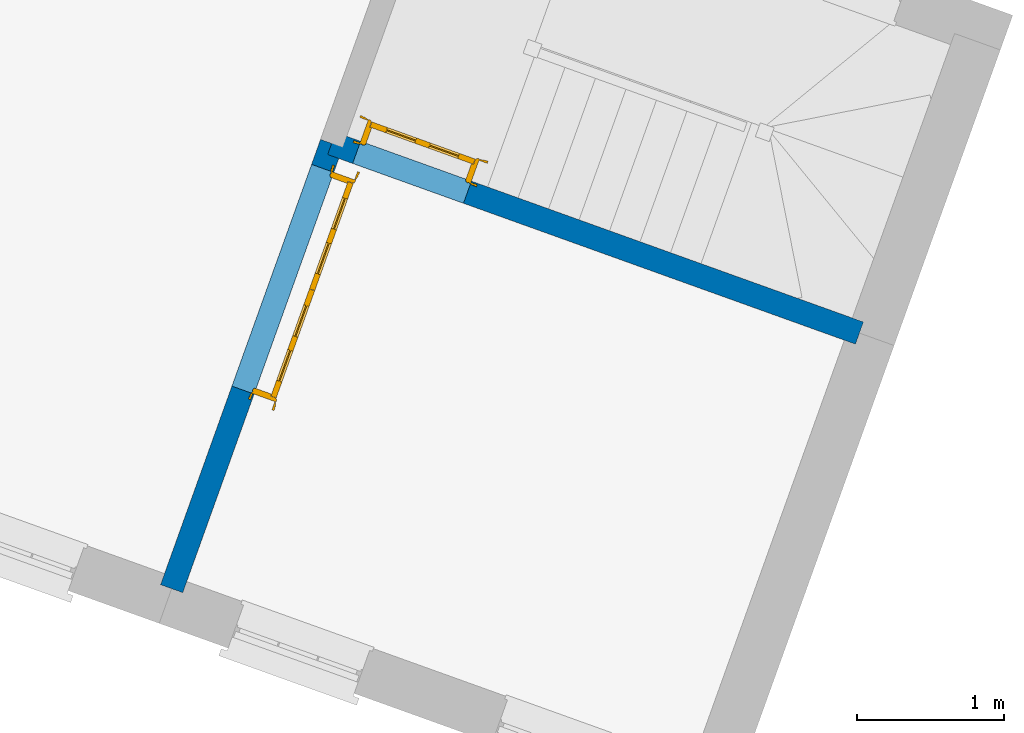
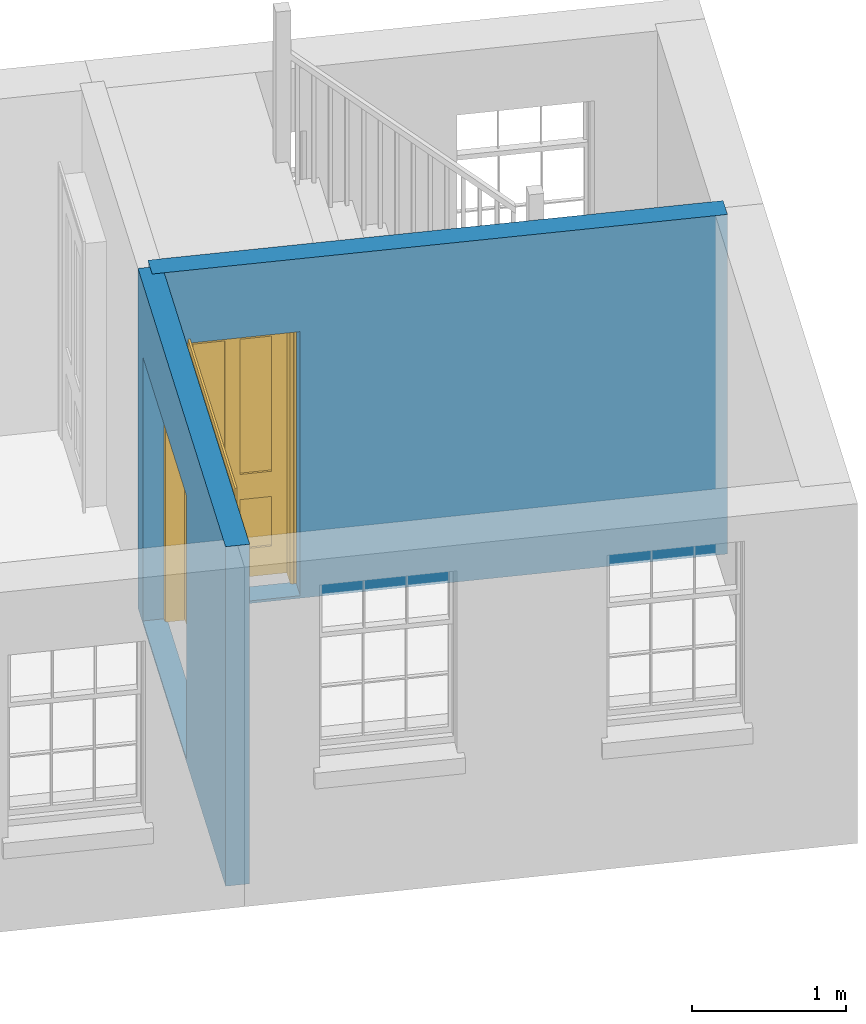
# One storey, part 2 of 4: 2 doors, 2 walls, 2 openings.
"""IFC4 building model written with IfcOpenShell, lengths in metres."""

from ifc_helpers import new_model, si_unit, frame, origin, origin_with_axes, place, context, subcontext, project, spatial, polyline, outline, extrude, faceted_brep, source, transform, mapped, material, layer, layer_set, layer_usage, type_object, type_shapes, element, fill, save


model = new_model("IFC4")

# Units and contexts
model_context = context("Model", 3, world=origin_with_axes())
body_context = subcontext(model_context, "Body", "Model", "MODEL_VIEW")
ifc_project = project(units=[si_unit("PLANEANGLEUNIT", "RADIAN"), si_unit("MASSUNIT", "GRAM", prefix="KILO"), si_unit("FORCEUNIT", "NEWTON", prefix="KILO"), si_unit("LENGTHUNIT", "METRE"), si_unit("AREAUNIT", "SQUARE_METRE"), si_unit("VOLUMEUNIT", "CUBIC_METRE")], contexts=[model_context, model_context])

# Sites, building, storey
site_1_placement = place(None, origin_with_axes())
site_1 = spatial("IfcSite", under=ifc_project, at=site_1_placement, Name="Tamar")
site_2_placement = place(site_1_placement, origin_with_axes())
site_2 = spatial("IfcSite", under=site_1, at=site_2_placement, Name="Site plot-21", CompositionType="ELEMENT")
building_placement = place(None, origin_with_axes())
building = spatial("IfcBuilding", under=site_2, at=building_placement, Name="Building plot-21", CompositionType="ELEMENT")
storey_placement = place(None, frame((0.0, 0.0, 29.6), z_axis=(0.0, 0.0, 1.0), x_axis=(1.0, 0.0, 0.0)))
storey = spatial("IfcBuildingStorey", under=building, at=storey_placement, Name="plot-21 1", CompositionType="ELEMENT", Elevation=29.6)

# Wall, opening, door
ifc_material = material(Name="Masonry")
ifc_layer = layer(ifc_material, 0.16, ventilated=False)
ifc_layer_set = layer_set([ifc_layer], Name="interior_0.08_0.08")
ifc_layer_usage = layer_usage(ifc_layer_set, "AXIS2", "POSITIVE", -0.08)
wall_type = type_object("IfcWallType", Name="interior_0.08_0.08", PredefinedType="SOLIDWALL", material=ifc_layer_set)
wall_1_placement = place(storey_placement, frame((258.100590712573, 284.200784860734, 0.0), z_axis=(0.0, 0.0, 1.0), x_axis=(-0.338164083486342, -0.941087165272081, 0.0)))
wall_1 = element("IfcWall", 1, at=wall_1_placement, inside=storey, type_object=wall_type, material=ifc_layer_usage, Name="interior", context=body_context, shape_type="SweptSolid", body=[
    extrude(outline(polyline([(-2.09046521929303e-14, 0.0799999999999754), (2.09303821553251e-14, -0.0799999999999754), (3.21283986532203, -0.0799999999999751), (3.21283986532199, 0.0799999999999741), (-2.09046521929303e-14, 0.0799999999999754)])), origin_with_axes(), (0.0, 0.0, 1.0), 2.7),
])
opening_1_placement = place(wall_1_placement, frame((0.180000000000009, 0.0, 0.0199999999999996)))
opening_1 = element("IfcOpeningElement", 2, at=opening_1_placement, cuts=wall_1, Name="My Opening", ObjectType="Opening", context=body_context, shape_type="SweptSolid", body=[
    extrude(outline(polyline([(0.0, -0.100000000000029), (1.6, -0.0999999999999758), (1.59999999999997, 1.10000000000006), (-3.53883589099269e-14, 1.1), (0.0, -0.100000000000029)])), origin_with_axes(), (0.0, 0.0, 1.0), 2.1),
])
door_type_1 = type_object("IfcDoorType", Name="door_inside_double", OperationType="SINGLE_SWING_LEFT", PredefinedType="NOTDEFINED")
shared_shape_1 = source(origin(), body_context, "Body", "Brep", [
    faceted_brep([(0.14, 0.307, 1.895), (0.14, 0.307, 0.82), (0.363, 0.307, 0.82), (0.363, 0.307, 1.895), (0.14, 0.292, 1.895), (0.14, 0.292, 0.82), (0.363, 0.292, 0.82), (0.363, 0.292, 1.895), (0.027, 0.292, 1.895), (0.027, 0.292, 0.82), (0.363, 0.292, 0.62), (0.14, 0.292, 0.62), (0.463, 0.292, 0.82), (0.463, 0.292, 1.895), (0.363, 0.292, 2.073), (0.14, 0.292, 2.073), (0.027, 0.292, 2.073), (0.027, 0.33, 1.895), (0.027, 0.33, 0.82), (0.027, 0.292, 0.62), (0.463, 0.292, 0.62), (0.14, 0.307, 0.62), (0.363, 0.307, 0.62), (0.463, 0.307, 0.82), (0.463, 0.307, 1.895), (0.463, 0.292, 2.073), (0.14, 0.33, 2.073), (0.363, 0.33, 2.073), (0.027, 0.33, 2.073), (0.14, 0.33, 1.895), (0.14, 0.33, 0.82), (0.027, 0.33, 0.62), (0.027, 0.292, 0.225), (0.14, 0.292, 0.225), (0.363, 0.292, 0.225), (0.463, 0.292, 0.225), (0.686, 0.292, 0.62), (0.686, 0.292, 0.82), (0.14, 0.307, 0.225), (0.363, 0.307, 0.225), (0.686, 0.307, 0.82), (0.686, 0.307, 1.895), (0.686, 0.292, 1.895), (0.686, 0.292, 2.073), (0.463, 0.33, 2.073), (0.363, 0.33, 1.895), (0.14, 0.315, 1.895), (0.14, 0.315, 0.82), (0.14, 0.33, 0.62), (0.027, 0.33, 0.225), (0.027, 0.292, 0.0), (0.14, 0.292, 0.0), (0.363, 0.292, 0.0), (0.463, 0.292, 0.0), (0.463, 0.307, 0.225), (0.463, 0.307, 0.62), (0.686, 0.307, 0.62), (0.799, 0.292, 0.62), (0.799, 0.292, 0.82), (0.799, 0.292, 1.895), (0.799, 0.292, 2.073), (0.686, 0.33, 2.073), (0.463, 0.33, 1.895), (0.363, 0.315, 1.895), (0.363, 0.315, 0.82), (0.363, 0.33, 0.82), (0.363, 0.33, 0.62), (0.14, 0.33, 0.225), (0.027, 0.33, 0.0), (0.14, 0.33, 0.0), (0.363, 0.33, 0.0), (0.463, 0.33, 0.0), (0.686, 0.292, 0.0), (0.686, 0.292, 0.225), (0.686, 0.307, 0.225), (0.799, 0.292, 0.225), (0.799, 0.33, 0.62), (0.799, 0.33, 0.82), (0.799, 0.33, 1.895), (0.799, 0.33, 2.073), (0.686, 0.33, 1.895), (0.463, 0.33, 0.82), (0.463, 0.33, 0.62), (0.363, 0.315, 0.62), (0.14, 0.315, 0.62), (0.14, 0.315, 0.225), (0.363, 0.33, 0.225), (0.463, 0.33, 0.225), (0.686, 0.33, 0.0), (0.799, 0.292, 0.0), (0.799, 0.33, 0.225), (0.686, 0.33, 0.62), (0.686, 0.33, 0.82), (0.686, 0.315, 1.895), (0.463, 0.315, 1.895), (0.463, 0.315, 0.82), (0.363, 0.315, 0.225), (0.686, 0.33, 0.225), (0.799, 0.33, 0.0), (0.686, 0.315, 0.82), (0.463, 0.315, 0.62), (0.463, 0.315, 0.225), (0.686, 0.315, 0.62), (0.686, 0.315, 0.225), (1.46, 0.33, 1.895), (1.237, 0.33, 1.895), (1.237, 0.33, 2.073), (1.46, 0.33, 2.073), (1.46, 0.315, 1.895), (1.237, 0.315, 1.895), (1.137, 0.33, 1.895), (1.137, 0.33, 2.073), (1.237, 0.292, 2.073), (1.46, 0.292, 2.073), (1.573, 0.33, 1.895), (1.573, 0.33, 2.073), (1.46, 0.33, 0.82), (1.46, 0.315, 0.82), (1.237, 0.315, 0.82), (1.237, 0.33, 0.82), (1.137, 0.33, 0.82), (0.914, 0.33, 2.073), (0.914, 0.33, 1.895), (1.137, 0.292, 2.073), (1.237, 0.292, 1.895), (1.46, 0.292, 1.895), (1.573, 0.292, 2.073), (1.573, 0.33, 0.82), (1.573, 0.292, 1.895), (1.237, 0.33, 0.62), (1.137, 0.33, 0.62), (1.137, 0.315, 0.82), (1.137, 0.315, 1.895), (0.914, 0.292, 2.073), (0.914, 0.315, 1.895), (0.801, 0.33, 2.073), (0.801, 0.33, 1.895), (1.137, 0.292, 1.895), (1.237, 0.307, 1.895), (1.46, 0.307, 1.895), (1.573, 0.292, 0.82), (1.573, 0.33, 0.62), (1.46, 0.33, 0.62), (1.237, 0.33, 0.225), (1.137, 0.33, 0.225), (0.914, 0.33, 0.82), (0.914, 0.33, 0.62), (0.914, 0.315, 0.82), (0.801, 0.292, 2.073), (0.914, 0.292, 1.895), (0.801, 0.33, 0.82), (0.801, 0.292, 1.895), (1.137, 0.292, 0.82), (1.237, 0.292, 0.82), (1.237, 0.307, 0.82), (1.46, 0.307, 0.82), (1.46, 0.292, 0.82), (1.573, 0.292, 0.62), (1.573, 0.33, 0.225), (1.46, 0.33, 0.225), (1.46, 0.315, 0.62), (1.237, 0.315, 0.62), (1.237, 0.33, 0.0), (1.137, 0.33, 0.0), (1.137, 0.315, 0.225), (1.137, 0.315, 0.62), (1.237, 0.315, 0.225), (0.914, 0.315, 0.62), (0.801, 0.33, 0.62), (0.914, 0.307, 1.895), (1.137, 0.307, 1.895), (0.801, 0.292, 0.82), (1.137, 0.292, 0.62), (1.237, 0.292, 0.62), (1.137, 0.307, 0.82), (1.46, 0.292, 0.62), (1.573, 0.292, 0.225), (1.573, 0.33, 0.0), (1.46, 0.33, 0.0), (1.46, 0.315, 0.225), (1.237, 0.292, 0.0), (1.137, 0.292, 0.0), (0.914, 0.33, 0.225), (0.914, 0.33, 0.0), (0.914, 0.315, 0.225), (0.801, 0.33, 0.225), (0.801, 0.292, 0.62), (0.914, 0.292, 0.82), (0.914, 0.307, 0.82), (1.137, 0.292, 0.225), (1.237, 0.292, 0.225), (0.914, 0.292, 0.62), (1.46, 0.292, 0.225), (1.573, 0.292, 0.0), (1.46, 0.292, 0.0), (0.914, 0.292, 0.0), (0.801, 0.33, 0.0), (0.801, 0.292, 0.225), (1.237, 0.307, 0.225), (1.237, 0.307, 0.62), (1.137, 0.307, 0.62), (1.137, 0.307, 0.225), (1.46, 0.307, 0.62), (0.914, 0.307, 0.62), (1.46, 0.307, 0.225), (0.914, 0.292, 0.225), (0.801, 0.292, 0.0), (0.914, 0.307, 0.225), (0.02, 0.335, 0.0), (0.005, 0.34, 0.0), (0.005, 0.34, 2.095), (0.02, 0.335, 2.08), (0.02, 0.33, 0.0), (0.0, 0.335, 0.0), (0.0, 0.335, 2.1), (1.595, 0.34, 2.095), (1.58, 0.335, 2.08), (0.02, 0.33, 2.08), (0.0, 0.33, 0.0), (-0.032, 0.345, 0.0), (-0.032, 0.345, 2.132), (1.6, 0.335, 2.1), (1.595, 0.34, 0.0), (1.58, 0.335, 0.0), (1.58, 0.33, 2.08), (0.025, 0.33, 0.0), (0.025, 0.33, 2.075), (-0.04, 0.34, 0.0), (0.025, 0.29, 0.0), (0.0, 0.17, 0.0), (-0.04, 0.34, 2.14), (1.632, 0.345, 2.132), (1.6, 0.335, 0.0), (1.58, 0.33, 0.0), (1.575, 0.33, 2.075), (0.025, 0.29, 2.075), (-0.06, 0.33, 0.0), (0.035, 0.17, 0.0), (0.0, 0.17, 2.1), (0.0, 0.33, 2.1), (-0.04, 0.345, 0.0), (-0.04, 0.345, 2.14), (1.64, 0.34, 2.14), (1.632, 0.345, 0.0), (1.6, 0.33, 0.0), (1.575, 0.33, 0.0), (1.575, 0.29, 2.075), (0.04, 0.29, 0.0), (0.04, 0.29, 2.06), (-0.06, 0.345, 0.0), (-0.06, 0.33, 2.16), (0.015, 0.165, 0.0), (0.04, 0.17, 0.0), (-0.045, 0.17, 2.145), (-0.045, 0.17, 0.0), (1.6, 0.17, 2.1), (1.6, 0.33, 2.1), (-0.06, 0.345, 2.16), (1.64, 0.345, 2.14), (1.64, 0.34, 0.0), (1.6, 0.17, 0.0), (1.575, 0.29, 0.0), (1.56, 0.29, 2.06), (0.04, 0.17, 2.06), (1.66, 0.33, 2.16), (-0.017, 0.155, 0.0), (-0.025, 0.16, 0.0), (0.02, 0.16, 0.0), (0.035, 0.165, 0.0), (0.035, 0.17, 2.065), (1.645, 0.17, 2.145), (-0.045, 0.155, 2.145), (-0.045, 0.155, 0.0), (1.66, 0.345, 2.16), (1.64, 0.345, 0.0), (1.66, 0.33, 0.0), (1.565, 0.17, 0.0), (1.56, 0.29, 0.0), (1.56, 0.17, 2.06), (-0.017, 0.155, 2.117), (-0.025, 0.16, 2.125), (0.015, 0.165, 2.085), (0.02, 0.16, 2.08), (0.035, 0.165, 2.065), (1.565, 0.17, 2.065), (1.645, 0.17, 0.0), (1.645, 0.155, 2.145), (-0.025, 0.155, 0.0), (1.66, 0.345, 0.0), (1.585, 0.165, 0.0), (1.56, 0.17, 0.0), (1.617, 0.155, 2.117), (1.625, 0.16, 2.125), (-0.025, 0.155, 2.125), (1.585, 0.165, 2.085), (1.58, 0.16, 2.08), (1.565, 0.165, 2.065), (1.625, 0.16, 0.0), (1.645, 0.155, 0.0), (1.625, 0.155, 2.125), (1.617, 0.155, 0.0), (1.565, 0.165, 0.0), (1.58, 0.16, 0.0), (1.625, 0.155, 0.0)], [[[0, 1, 2, 3]], [[1, 0, 4, 5]], [[2, 1, 5, 6]], [[6, 7, 3, 2]], [[7, 4, 0, 3]], [[4, 8, 9, 5]], [[10, 6, 5, 11]], [[6, 12, 13, 7]], [[14, 15, 4, 7]], [[15, 16, 8, 4]], [[9, 8, 17, 18]], [[5, 9, 19, 11]], [[10, 20, 12, 6]], [[10, 11, 21, 22]], [[13, 12, 23, 24]], [[7, 13, 25, 14]], [[26, 15, 14, 27]], [[28, 16, 15, 26]], [[8, 16, 28, 17]], [[17, 29, 30, 18]], [[18, 31, 19, 9]], [[11, 19, 32, 33]], [[34, 35, 20, 10]], [[20, 36, 37, 12]], [[11, 33, 38, 21]], [[39, 22, 21, 38]], [[34, 10, 22, 39]], [[12, 37, 40, 23]], [[24, 23, 40, 41]], [[42, 13, 24, 41]], [[13, 42, 43, 25]], [[14, 25, 44, 27]], [[26, 27, 45, 29]], [[28, 26, 29, 17]], [[30, 29, 46, 47]], [[18, 30, 48, 31]], [[31, 49, 32, 19]], [[33, 32, 50, 51]], [[52, 53, 35, 34]], [[20, 35, 54, 55]], [[36, 20, 55, 56]], [[36, 57, 58, 37]], [[33, 34, 39, 38]], [[37, 42, 41, 40]], [[42, 59, 60, 43]], [[44, 25, 43, 61]], [[62, 45, 27, 44]], [[29, 45, 63, 46]], [[46, 63, 64, 47]], [[65, 30, 47, 64]], [[30, 65, 66, 48]], [[31, 48, 67, 49]], [[68, 50, 32, 49]], [[68, 69, 51, 50]], [[34, 33, 51, 52]], [[53, 52, 70, 71]], [[53, 72, 73, 35]], [[35, 73, 74, 54]], [[55, 54, 74, 56]], [[73, 36, 56, 74]], [[73, 75, 57, 36]], [[57, 76, 77, 58]], [[37, 58, 59, 42]], [[78, 79, 60, 59]], [[60, 79, 61, 43]], [[80, 62, 44, 61]], [[81, 65, 45, 62]], [[45, 65, 64, 63]], [[82, 66, 65, 81]], [[48, 66, 83, 84]], [[67, 48, 84, 85]], [[49, 67, 69, 68]], [[52, 51, 69, 70]], [[71, 70, 86, 87]], [[72, 53, 71, 88]], [[72, 89, 75, 73]], [[75, 90, 76, 57]], [[76, 91, 92, 77]], [[78, 59, 58, 77]], [[78, 80, 61, 79]], [[62, 80, 93, 94]], [[81, 62, 94, 95]], [[87, 86, 66, 82]], [[91, 82, 81, 92]], [[66, 86, 96, 83]], [[84, 83, 96, 85]], [[86, 67, 85, 96]], [[67, 86, 70, 69]], [[88, 71, 87, 97]], [[89, 72, 88, 98]], [[89, 98, 90, 75]], [[90, 97, 91, 76]], [[80, 78, 77, 92]], [[80, 92, 99, 93]], [[99, 95, 94, 93]], [[92, 81, 95, 99]], [[87, 82, 100, 101]], [[82, 91, 102, 100]], [[97, 87, 101, 103]], [[98, 88, 97, 90]], [[91, 97, 103, 102]], [[103, 101, 100, 102]], [[104, 105, 106, 107]], [[105, 104, 108, 109]], [[105, 110, 111, 106]], [[106, 112, 113, 107]], [[114, 104, 107, 115]], [[104, 116, 117, 108]], [[117, 118, 109, 108]], [[119, 105, 109, 118]], [[119, 120, 110, 105]], [[121, 111, 110, 122]], [[123, 112, 106, 111]], [[124, 125, 113, 112]], [[126, 115, 107, 113]], [[104, 114, 127, 116]], [[114, 115, 126, 128]], [[116, 119, 118, 117]], [[129, 130, 120, 119]], [[110, 120, 131, 132]], [[121, 133, 123, 111]], [[122, 110, 132, 134]], [[135, 121, 122, 136]], [[137, 124, 112, 123]], [[125, 124, 138, 139]], [[125, 128, 126, 113]], [[114, 128, 140, 127]], [[141, 142, 116, 127]], [[142, 129, 119, 116]], [[143, 144, 130, 129]], [[145, 120, 130, 146]], [[120, 145, 147, 131]], [[134, 132, 131, 147]], [[135, 148, 133, 121]], [[123, 133, 149, 137]], [[145, 122, 134, 147]], [[136, 122, 145, 150]], [[151, 148, 135, 136]], [[152, 153, 124, 137]], [[124, 153, 154, 138]], [[138, 154, 155, 139]], [[156, 125, 139, 155]], [[156, 140, 128, 125]], [[157, 141, 127, 140]], [[158, 159, 142, 141]], [[129, 142, 160, 161]], [[162, 163, 144, 143]], [[130, 144, 164, 165]], [[143, 129, 161, 166]], [[146, 130, 165, 167]], [[150, 145, 146, 168]], [[133, 148, 151, 149]], [[137, 149, 169, 170]], [[171, 151, 136, 150]], [[172, 173, 153, 152]], [[152, 137, 170, 174]], [[153, 156, 155, 154]], [[175, 157, 140, 156]], [[176, 158, 141, 157]], [[177, 178, 159, 158]], [[142, 159, 179, 160]], [[179, 166, 161, 160]], [[180, 181, 163, 162]], [[182, 144, 163, 183]], [[178, 162, 143, 159]], [[144, 182, 184, 164]], [[167, 165, 164, 184]], [[159, 143, 166, 179]], [[182, 146, 167, 184]], [[168, 146, 182, 185]], [[150, 168, 186, 171]], [[149, 151, 171, 187]], [[149, 187, 188, 169]], [[169, 188, 174, 170]], [[189, 190, 173, 172]], [[173, 175, 156, 153]], [[172, 152, 187, 191]], [[187, 152, 174, 188]], [[192, 176, 157, 175]], [[193, 177, 158, 176]], [[193, 194, 178, 177]], [[181, 180, 190, 189]], [[181, 195, 183, 163]], [[194, 180, 162, 178]], [[185, 182, 183, 196]], [[168, 185, 197, 186]], [[187, 171, 186, 191]], [[173, 190, 198, 199]], [[189, 172, 200, 201]], [[175, 173, 199, 202]], [[172, 191, 203, 200]], [[194, 193, 176, 192]], [[192, 175, 202, 204]], [[180, 194, 192, 190]], [[189, 205, 195, 181]], [[196, 183, 195, 206]], [[196, 206, 197, 185]], [[191, 186, 197, 205]], [[190, 192, 204, 198]], [[199, 198, 204, 202]], [[201, 200, 203, 207]], [[205, 189, 201, 207]], [[191, 205, 207, 203]], [[205, 197, 206, 195]], [[208, 209, 210, 211]], [[208, 212, 213, 209]], [[209, 213, 214, 210]], [[211, 210, 215, 216]], [[211, 217, 212, 208]], [[218, 213, 212]], [[213, 219, 220, 214]], [[210, 214, 221, 215]], [[216, 215, 222, 223]], [[217, 211, 216, 224]], [[225, 212, 217, 226]], [[219, 213, 218, 227]], [[218, 212, 228, 229]], [[219, 227, 230, 220]], [[214, 220, 231, 221]], [[215, 221, 232, 222]], [[222, 232, 233, 223]], [[224, 216, 223, 233]], [[226, 217, 224, 234]], [[225, 228, 212]], [[235, 228, 225, 226]], [[236, 227, 218]], [[237, 229, 228]], [[229, 238, 239, 218]], [[227, 240, 241, 230]], [[220, 230, 242, 231]], [[221, 231, 243, 232]], [[244, 233, 232]], [[234, 224, 233, 245]], [[246, 235, 226, 234]], [[247, 228, 235, 248]], [[240, 227, 236, 249]], [[239, 250, 236, 218]], [[251, 229, 237]], [[252, 237, 228, 247]], [[253, 238, 229, 254]], [[238, 255, 256, 239]], [[241, 240, 257]], [[230, 241, 258, 242]], [[231, 242, 259, 243]], [[259, 244, 232, 243]], [[260, 261, 233, 244]], [[245, 233, 261]], [[261, 246, 234, 245]], [[248, 235, 246, 262]], [[248, 263, 252, 247]], [[250, 257, 249, 236]], [[240, 249, 257]], [[256, 264, 250, 239]], [[265, 266, 229, 251]], [[267, 251, 237, 268]], [[263, 269, 237, 252]], [[270, 255, 238, 253]], [[229, 266, 254]], [[271, 253, 254, 272]], [[256, 255, 260, 244]], [[273, 241, 257]], [[273, 258, 241]], [[242, 258, 274, 259]], [[275, 244, 259]], [[260, 276, 261]], [[261, 277, 262, 246]], [[262, 278, 263, 248]], [[264, 273, 257, 250]], [[244, 275, 264, 256]], [[266, 265, 279, 280]], [[265, 251, 281, 279]], [[251, 267, 282, 281]], [[269, 283, 268, 237]], [[267, 268, 283, 282]], [[278, 284, 269, 263]], [[285, 260, 255, 270]], [[286, 270, 253, 271]], [[272, 254, 266, 287]], [[271, 272, 287]], [[273, 274, 258]], [[288, 275, 259, 274]], [[276, 260, 289]], [[277, 261, 276, 290]], [[278, 262, 277, 290]], [[275, 288, 273, 264]], [[280, 279, 291, 292]], [[287, 266, 280, 293]], [[279, 281, 294, 291]], [[281, 282, 295, 294]], [[284, 296, 283, 269]], [[282, 283, 296, 295]], [[290, 276, 284, 278]], [[285, 297, 260]], [[298, 285, 270, 286]], [[299, 286, 271]], [[271, 287, 293]], [[273, 288, 274]], [[300, 289, 260, 297]], [[301, 276, 289, 302]], [[292, 291, 300, 297]], [[293, 280, 292, 299]], [[291, 294, 289, 300]], [[294, 295, 302, 289]], [[296, 284, 276, 301]], [[295, 296, 301, 302]], [[303, 297, 285, 298]], [[299, 298, 286]], [[271, 293, 299]], [[299, 292, 297, 303]], [[299, 303, 298]]]),
])
type_shapes(door_type_1, [shared_shape_1])
door_1_placement = place(storey_placement, frame((257.945612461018, 284.065205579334, 0.0199999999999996), z_axis=(0.0, 0.0, 1.0), x_axis=(-0.541062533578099, -1.50573946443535, 0.0)))
door_1 = element("IfcDoor", 3, at=door_1_placement, inside=storey, type_object=door_type_1, Name="kitchen living inside door", OverallHeight=2.1, OverallWidth=1.6, context=body_context, shape_type="MappedRepresentation", body=[
    mapped(shared_shape_1, transform((0.0, 0.0, 0.0), scale=1.0)),
])
fill(opening_1, door_1)

wall_2_placement = place(storey_placement, frame((258.100590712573, 284.200784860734, 0.0), z_axis=(0.0, 0.0, 1.0), x_axis=(0.941087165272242, -0.338164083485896, 0.0)))
wall_2 = element("IfcWall", 4, at=wall_2_placement, inside=storey, type_object=wall_type, material=ifc_layer_usage, Name="interior", context=body_context, shape_type="SweptSolid", body=[
    extrude(outline(polyline([(-2.23331103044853e-15, 0.0800000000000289), (2.18798671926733e-15, -0.0800000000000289), (3.80822589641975, -0.0800000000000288), (3.80822589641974, 0.0800000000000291), (-2.23331103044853e-15, 0.0800000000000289)])), origin_with_axes(), (0.0, 0.0, 1.0), 2.7),
])
opening_2_placement = place(wall_2_placement, frame((0.18000000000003, 0.0, 0.0199999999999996)))
opening_2 = element("IfcOpeningElement", 5, at=opening_2_placement, cuts=wall_2, Name="My Opening", ObjectType="Opening", context=body_context, shape_type="SweptSolid", body=[
    extrude(outline(polyline([(0.0, -0.099999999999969), (0.800000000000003, -0.0999999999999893), (0.799999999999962, 1.09999999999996), (-4.03566069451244e-14, 1.09999999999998), (0.0, -0.099999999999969)])), origin_with_axes(), (0.0, 0.0, 1.0), 2.1),
])
door_type_2 = type_object("IfcDoorType", Name="door_inside", OperationType="SINGLE_SWING_LEFT", PredefinedType="NOTDEFINED")
shared_shape_2 = source(origin(), body_context, "Body", "Brep", [
    faceted_brep([(0.773, 0.33, 1.895), (0.66, 0.33, 1.895), (0.66, 0.33, 2.073), (0.773, 0.33, 2.073), (0.773, 0.33, 0.82), (0.66, 0.33, 0.82), (0.45, 0.33, 1.895), (0.45, 0.33, 2.073), (0.773, 0.33, 0.62), (0.66, 0.33, 0.62), (0.66, 0.315, 0.82), (0.66, 0.315, 1.895), (0.45, 0.315, 1.895), (0.35, 0.33, 1.895), (0.35, 0.33, 2.073), (0.773, 0.33, 0.225), (0.66, 0.33, 0.225), (0.45, 0.33, 0.62), (0.45, 0.33, 0.82), (0.45, 0.315, 0.82), (0.35, 0.33, 0.82), (0.14, 0.33, 2.073), (0.14, 0.33, 1.895), (0.773, 0.33, 0.0), (0.66, 0.33, 0.0), (0.66, 0.315, 0.225), (0.66, 0.315, 0.62), (0.45, 0.315, 0.62), (0.35, 0.33, 0.62), (0.35, 0.315, 0.82), (0.35, 0.315, 1.895), (0.14, 0.315, 1.895), (0.027, 0.33, 2.073), (0.027, 0.33, 1.895), (0.773, 0.292, 0.0), (0.66, 0.292, 0.0), (0.45, 0.33, 0.0), (0.45, 0.33, 0.225), (0.45, 0.315, 0.225), (0.35, 0.33, 0.225), (0.14, 0.33, 0.82), (0.14, 0.33, 0.62), (0.14, 0.315, 0.82), (0.027, 0.33, 0.82), (0.773, 0.292, 0.225), (0.66, 0.292, 0.225), (0.45, 0.292, 0.0), (0.35, 0.33, 0.0), (0.35, 0.315, 0.225), (0.35, 0.315, 0.62), (0.14, 0.315, 0.62), (0.027, 0.33, 0.62), (0.773, 0.292, 0.62), (0.66, 0.292, 0.62), (0.45, 0.292, 0.225), (0.35, 0.292, 0.0), (0.14, 0.33, 0.225), (0.14, 0.33, 0.0), (0.14, 0.315, 0.225), (0.027, 0.33, 0.225), (0.773, 0.292, 0.82), (0.66, 0.292, 0.82), (0.66, 0.307, 0.62), (0.66, 0.307, 0.225), (0.45, 0.307, 0.225), (0.35, 0.292, 0.225), (0.14, 0.292, 0.0), (0.027, 0.33, 0.0), (0.773, 0.292, 1.895), (0.66, 0.292, 1.895), (0.45, 0.292, 0.62), (0.45, 0.292, 0.82), (0.45, 0.307, 0.62), (0.35, 0.292, 0.62), (0.14, 0.292, 0.225), (0.027, 0.292, 0.0), (0.773, 0.292, 2.073), (0.66, 0.292, 2.073), (0.66, 0.307, 1.895), (0.66, 0.307, 0.82), (0.45, 0.307, 0.82), (0.35, 0.292, 0.82), (0.35, 0.307, 0.62), (0.35, 0.307, 0.225), (0.14, 0.307, 0.225), (0.027, 0.292, 0.225), (0.45, 0.292, 1.895), (0.45, 0.292, 2.073), (0.45, 0.307, 1.895), (0.35, 0.292, 1.895), (0.14, 0.292, 0.82), (0.14, 0.292, 0.62), (0.14, 0.307, 0.62), (0.027, 0.292, 0.62), (0.35, 0.292, 2.073), (0.35, 0.307, 1.895), (0.35, 0.307, 0.82), (0.14, 0.307, 0.82), (0.027, 0.292, 0.82), (0.14, 0.292, 2.073), (0.14, 0.292, 1.895), (0.14, 0.307, 1.895), (0.027, 0.292, 1.895), (0.027, 0.292, 2.073), (0.02, 0.335, 0.0), (0.005, 0.34, 0.0), (0.005, 0.34, 2.095), (0.02, 0.335, 2.08), (0.02, 0.33, 0.0), (0.0, 0.335, 0.0), (0.0, 0.335, 2.1), (0.795, 0.34, 2.095), (0.78, 0.335, 2.08), (0.02, 0.33, 2.08), (0.0, 0.33, 0.0), (-0.032, 0.345, 0.0), (-0.032, 0.345, 2.132), (0.8, 0.335, 2.1), (0.795, 0.34, 0.0), (0.78, 0.335, 0.0), (0.78, 0.33, 2.08), (0.04, 0.29, 0.0), (0.025, 0.29, 0.0), (0.025, 0.29, 2.075), (0.04, 0.29, 2.06), (-0.04, 0.34, 0.0), (-0.04, 0.34, 2.14), (0.832, 0.345, 2.132), (0.8, 0.335, 0.0), (0.78, 0.33, 0.0), (0.8, 0.33, 0.0), (0.86, 0.33, 0.0), (0.86, 0.33, 2.16), (0.8, 0.33, 2.1), (-0.06, 0.33, 2.16), (0.0, 0.33, 2.1), (-0.06, 0.33, 0.0), (-0.04, 0.345, 0.0), (-0.04, 0.345, 2.14), (0.84, 0.34, 2.14), (0.832, 0.345, 0.0), (0.84, 0.34, 0.0), (0.86, 0.345, 0.0), (0.86, 0.345, 2.16), (-0.06, 0.345, 2.16), (-0.06, 0.345, 0.0), (0.84, 0.345, 0.0), (0.84, 0.345, 2.14), (-0.025, 0.155, 0.0), (-0.025, 0.16, 0.0), (-0.025, 0.16, 2.125), (-0.025, 0.155, 2.125), (-0.017, 0.155, 0.0), (-0.017, 0.155, 2.117), (0.825, 0.16, 2.125), (0.825, 0.155, 2.125), (0.825, 0.155, 0.0), (0.845, 0.155, 0.0), (-0.045, 0.155, 2.145), (-0.045, 0.155, 0.0), (0.845, 0.155, 2.145), (0.015, 0.165, 0.0), (0.015, 0.165, 2.085), (0.817, 0.155, 2.117), (0.825, 0.16, 0.0), (0.845, 0.17, 0.0), (0.845, 0.17, 2.145), (-0.045, 0.17, 2.145), (-0.045, 0.17, 0.0), (0.02, 0.16, 0.0), (0.02, 0.16, 2.08), (0.785, 0.165, 2.085), (0.817, 0.155, 0.0), (0.8, 0.17, 0.0), (0.8, 0.17, 2.1), (0.0, 0.17, 2.1), (0.0, 0.17, 0.0), (0.035, 0.165, 0.0), (0.035, 0.165, 2.065), (0.78, 0.16, 2.08), (0.785, 0.165, 0.0), (0.775, 0.29, 2.075), (0.76, 0.29, 2.06), (0.035, 0.17, 2.065), (0.035, 0.17, 0.0), (0.765, 0.165, 2.065), (0.78, 0.16, 0.0), (0.765, 0.17, 0.0), (0.765, 0.17, 2.065), (0.765, 0.165, 0.0), (0.04, 0.17, 2.06), (0.04, 0.17, 0.0), (0.76, 0.17, 2.06), (0.76, 0.17, 0.0), (0.76, 0.29, 0.0), (0.775, 0.29, 0.0), (0.025, 0.33, 0.0), (0.025, 0.33, 2.075), (0.775, 0.33, 0.0), (0.775, 0.33, 2.075)], [[[0, 1, 2, 3]], [[1, 0, 4, 5]], [[1, 6, 7, 2]], [[8, 9, 5, 4]], [[1, 5, 10, 11]], [[6, 1, 11, 12]], [[6, 13, 14, 7]], [[15, 16, 9, 8]], [[9, 17, 18, 5]], [[5, 18, 19, 10]], [[10, 19, 12, 11]], [[18, 6, 12, 19]], [[18, 20, 13, 6]], [[21, 14, 13, 22]], [[23, 24, 16, 15]], [[9, 16, 25, 26]], [[17, 9, 26, 27]], [[17, 28, 20, 18]], [[13, 20, 29, 30]], [[22, 13, 30, 31]], [[32, 21, 22, 33]], [[34, 35, 24, 23]], [[24, 36, 37, 16]], [[16, 37, 38, 25]], [[25, 38, 27, 26]], [[37, 17, 27, 38]], [[37, 39, 28, 17]], [[40, 20, 28, 41]], [[20, 40, 42, 29]], [[31, 30, 29, 42]], [[40, 22, 31, 42]], [[33, 22, 40, 43]], [[35, 34, 44, 45]], [[35, 46, 36, 24]], [[36, 47, 39, 37]], [[28, 39, 48, 49]], [[41, 28, 49, 50]], [[43, 40, 41, 51]], [[45, 44, 52, 53]], [[46, 35, 45, 54]], [[46, 55, 47, 36]], [[56, 39, 47, 57]], [[39, 56, 58, 48]], [[50, 49, 48, 58]], [[56, 41, 50, 58]], [[51, 41, 56, 59]], [[53, 52, 60, 61]], [[45, 53, 62, 63]], [[54, 45, 63, 64]], [[55, 46, 54, 65]], [[55, 66, 57, 47]], [[59, 56, 57, 67]], [[61, 60, 68, 69]], [[70, 53, 61, 71]], [[53, 70, 72, 62]], [[72, 64, 63, 62]], [[70, 54, 64, 72]], [[65, 54, 70, 73]], [[65, 74, 66, 55]], [[67, 57, 66, 75]], [[69, 68, 76, 77]], [[61, 69, 78, 79]], [[71, 61, 79, 80]], [[73, 70, 71, 81]], [[65, 73, 82, 83]], [[74, 65, 83, 84]], [[74, 85, 75, 66]], [[86, 69, 77, 87]], [[69, 86, 88, 78]], [[88, 80, 79, 78]], [[86, 71, 80, 88]], [[81, 71, 86, 89]], [[73, 81, 90, 91]], [[73, 91, 92, 82]], [[83, 82, 92, 84]], [[91, 74, 84, 92]], [[91, 93, 85, 74]], [[89, 86, 87, 94]], [[81, 89, 95, 96]], [[90, 81, 96, 97]], [[90, 98, 93, 91]], [[94, 99, 100, 89]], [[89, 100, 101, 95]], [[101, 97, 96, 95]], [[100, 90, 97, 101]], [[100, 102, 98, 90]], [[99, 103, 102, 100]], [[32, 103, 99, 21]], [[102, 103, 32, 33]], [[98, 102, 33, 43]], [[21, 99, 94, 14]], [[94, 87, 7, 14]], [[7, 87, 77, 2]], [[76, 3, 2, 77]], [[43, 51, 93, 98]], [[51, 59, 85, 93]], [[67, 75, 85, 59]], [[34, 23, 15, 44]], [[44, 15, 8, 52]], [[52, 8, 4, 60]], [[0, 68, 60, 4]], [[0, 3, 76, 68]], [[104, 105, 106, 107]], [[104, 108, 109, 105]], [[105, 109, 110, 106]], [[107, 106, 111, 112]], [[107, 113, 108, 104]], [[114, 109, 108]], [[109, 115, 116, 110]], [[106, 110, 117, 111]], [[112, 111, 118, 119]], [[113, 107, 112, 120]], [[121, 122, 123, 124]], [[115, 109, 114, 125]], [[115, 125, 126, 116]], [[110, 116, 127, 117]], [[111, 117, 128, 118]], [[118, 128, 129, 119]], [[120, 112, 119, 129]], [[130, 129, 128]], [[130, 131, 132, 133]], [[133, 132, 134, 135]], [[135, 134, 136, 114]], [[136, 125, 114]], [[125, 137, 138, 126]], [[116, 126, 139, 127]], [[117, 127, 140, 128]], [[141, 130, 128, 140]], [[131, 130, 141]], [[131, 142, 143, 132]], [[132, 143, 144, 134]], [[134, 144, 145, 136]], [[137, 125, 136, 145]], [[143, 142, 146]], [[143, 146, 147]], [[137, 145, 144]], [[143, 147, 138]], [[138, 137, 144]], [[143, 138, 144]], [[126, 138, 147, 139]], [[127, 139, 141, 140]], [[142, 131, 141, 146]], [[139, 147, 146, 141]], [[148, 149, 150, 151]], [[149, 152, 153, 150]], [[151, 150, 154, 155]], [[155, 156, 157]], [[158, 159, 148]], [[158, 148, 151]], [[155, 157, 160]], [[158, 151, 155]], [[155, 160, 158]], [[152, 161, 162, 153]], [[150, 153, 163, 154]], [[155, 154, 164, 156]], [[156, 164, 165, 157]], [[157, 165, 166, 160]], [[160, 166, 167, 158]], [[158, 167, 168, 159]], [[161, 169, 170, 162]], [[153, 162, 171, 163]], [[154, 163, 172, 164]], [[165, 164, 173]], [[165, 173, 174, 166]], [[166, 174, 175, 167]], [[167, 175, 176, 168]], [[169, 177, 178, 170]], [[162, 170, 179, 171]], [[163, 171, 180, 172]], [[172, 180, 173, 164]], [[124, 123, 181, 182]], [[183, 178, 177, 184]], [[170, 178, 185, 179]], [[171, 179, 186, 180]], [[187, 173, 180]], [[185, 188, 187, 189]], [[188, 185, 178, 183]], [[179, 185, 189, 186]], [[189, 187, 180, 186]], [[190, 183, 184, 191]], [[192, 188, 183, 190]], [[191, 184, 122, 121]], [[124, 190, 191, 121]], [[193, 187, 188, 192]], [[182, 192, 190, 124]], [[184, 176, 122]], [[194, 195, 187, 193]], [[192, 182, 194, 193]], [[161, 176, 184]], [[114, 108, 122, 176]], [[173, 187, 195]], [[152, 149, 176, 161]], [[169, 161, 184, 177]], [[196, 122, 108]], [[176, 175, 135, 114]], [[173, 195, 129, 130]], [[176, 149, 168]], [[123, 122, 196, 197]], [[196, 108, 113, 197]], [[175, 174, 133, 135]], [[198, 129, 195]], [[133, 174, 173, 130]], [[159, 168, 149, 148]], [[181, 123, 197, 199]], [[197, 113, 120, 199]], [[199, 120, 129, 198]], [[195, 181, 199, 198]], [[195, 194, 182, 181]]]),
])
type_shapes(door_type_2, [shared_shape_2])
door_2_placement = place(storey_placement, frame((258.236169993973, 284.045806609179, 0.0199999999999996), z_axis=(0.0, 0.0, 1.0), x_axis=(0.752869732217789, -0.270531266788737, 0.0)))
door_2 = element("IfcDoor", 6, at=door_2_placement, inside=storey, type_object=door_type_2, Name="kitchen inside door", OverallHeight=2.1, OverallWidth=0.8, context=body_context, shape_type="MappedRepresentation", body=[
    mapped(shared_shape_2, transform((0.0, 0.0, 0.0), scale=1.0)),
])
fill(opening_2, door_2)

save(model, "model.ifc")
